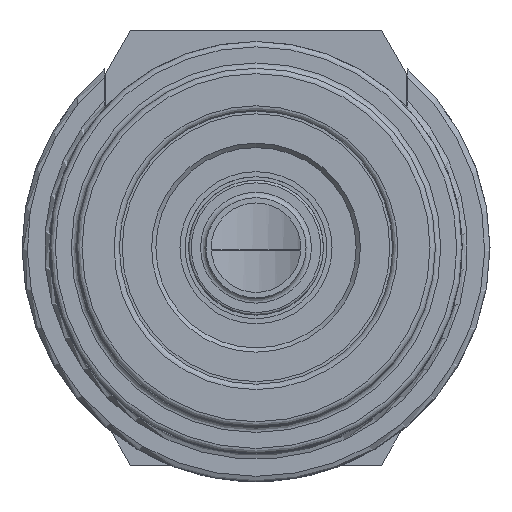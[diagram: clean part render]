
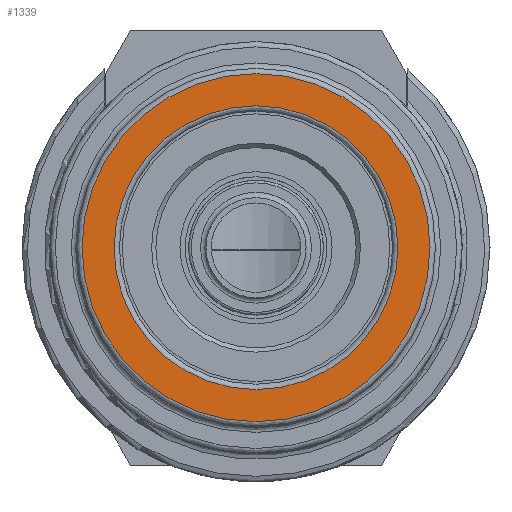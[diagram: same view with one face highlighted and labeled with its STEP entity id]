
A CAD part, front view. The second image highlights one B-rep face of the part: STEP entity #1339.
In plain terms, the highlighted planar face has unit normal (0, -1, 0).
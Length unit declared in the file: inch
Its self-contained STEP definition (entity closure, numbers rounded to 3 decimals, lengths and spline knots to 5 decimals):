
#43=FACE_BOUND('',#240,.T.);
#157=FACE_OUTER_BOUND('',#239,.T.);
#239=EDGE_LOOP('',(#994));
#240=EDGE_LOOP('',(#995));
#501=CIRCLE('',#1484,0.265);
#502=CIRCLE('',#1486,0.325);
#602=VERTEX_POINT('',#2206);
#603=VERTEX_POINT('',#2210);
#749=EDGE_CURVE('',#602,#602,#501,.T.);
#750=EDGE_CURVE('',#603,#603,#502,.T.);
#994=ORIENTED_EDGE('',*,*,#750,.F.);
#995=ORIENTED_EDGE('',*,*,#749,.F.);
#1294=PLANE('',#1485);
#1339=ADVANCED_FACE('',(#157,#43),#1294,.T.);
#1484=AXIS2_PLACEMENT_3D('',#2208,#1730,#1731);
#1485=AXIS2_PLACEMENT_3D('',#2209,#1732,#1733);
#1486=AXIS2_PLACEMENT_3D('',#2211,#1734,#1735);
#1730=DIRECTION('center_axis',(0.,-1.,0.));
#1731=DIRECTION('ref_axis',(0.,0.,1.));
#1732=DIRECTION('center_axis',(0.,-1.,0.));
#1733=DIRECTION('ref_axis',(0.,0.,-1.));
#1734=DIRECTION('center_axis',(0.,1.,0.));
#1735=DIRECTION('ref_axis',(0.,0.,1.));
#2206=CARTESIAN_POINT('',(0.,0.,0.265));
#2208=CARTESIAN_POINT('Origin',(0.,0.,0.));
#2209=CARTESIAN_POINT('Origin',(0.,0.,-0.255));
#2210=CARTESIAN_POINT('',(0.,0.,0.325));
#2211=CARTESIAN_POINT('Origin',(0.,0.,0.));
